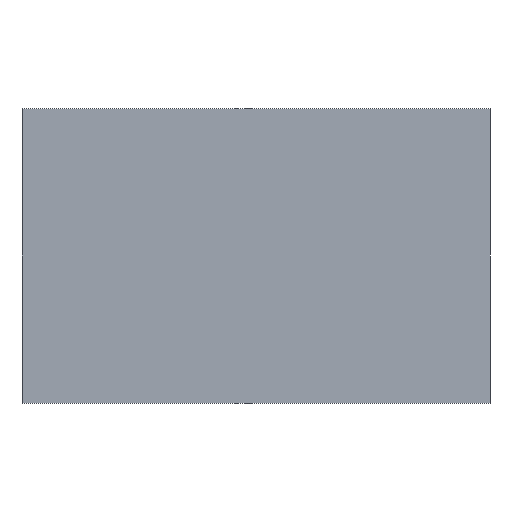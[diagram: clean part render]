
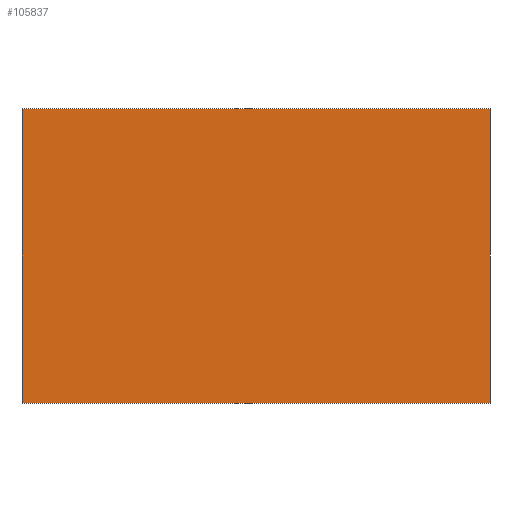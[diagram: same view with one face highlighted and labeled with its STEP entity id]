
A CAD part, front view. The second image highlights one B-rep face of the part: STEP entity #105837.
In plain terms, the highlighted planar face has unit normal (0, -1, 0) as drawn and (0, 0, -1) by its records, which use the part's own axes.
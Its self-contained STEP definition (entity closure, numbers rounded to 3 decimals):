
#103838=DIRECTION('',(0.,1.,0.));
#103839=VECTOR('',#103838,22.);
#103840=CARTESIAN_POINT('',(-25.,-11.,0.));
#103841=LINE('',#103840,#103839);
#103846=DIRECTION('',(1.,0.,0.));
#103847=VECTOR('',#103846,35.);
#103848=CARTESIAN_POINT('',(-25.,11.,0.));
#103849=LINE('',#103848,#103847);
#103854=DIRECTION('',(0.,-1.,0.));
#103855=VECTOR('',#103854,22.);
#103856=CARTESIAN_POINT('',(10.,11.,0.));
#103857=LINE('',#103856,#103855);
#103862=DIRECTION('',(-1.,0.,0.));
#103863=VECTOR('',#103862,35.);
#103864=CARTESIAN_POINT('',(10.,-11.,0.));
#103865=LINE('',#103864,#103863);
#105326=CARTESIAN_POINT('',(-25.,-11.,0.));
#105327=CARTESIAN_POINT('',(-25.,11.,0.));
#105328=VERTEX_POINT('',#105326);
#105329=VERTEX_POINT('',#105327);
#105330=CARTESIAN_POINT('',(10.,-11.,0.));
#105331=VERTEX_POINT('',#105330);
#105332=CARTESIAN_POINT('',(10.,11.,0.));
#105333=VERTEX_POINT('',#105332);
#105822=CARTESIAN_POINT('',(0.,0.,0.));
#105823=DIRECTION('',(0.,0.,1.));
#105824=DIRECTION('',(1.,0.,0.));
#105825=AXIS2_PLACEMENT_3D('',#105822,#105823,#105824);
#105826=PLANE('',#105825);
#105828=ORIENTED_EDGE('',*,*,#105827,.F.);
#105830=ORIENTED_EDGE('',*,*,#105829,.F.);
#105832=ORIENTED_EDGE('',*,*,#105831,.F.);
#105834=ORIENTED_EDGE('',*,*,#105833,.F.);
#105835=EDGE_LOOP('',(#105828,#105830,#105832,#105834));
#105836=FACE_OUTER_BOUND('',#105835,.F.);
#105837=ADVANCED_FACE('',(#105836),#105826,.F.);
#105827=EDGE_CURVE('',#105328,#105329,#103841,.T.);
#105829=EDGE_CURVE('',#105331,#105328,#103865,.T.);
#105831=EDGE_CURVE('',#105333,#105331,#103857,.T.);
#105833=EDGE_CURVE('',#105329,#105333,#103849,.T.);
